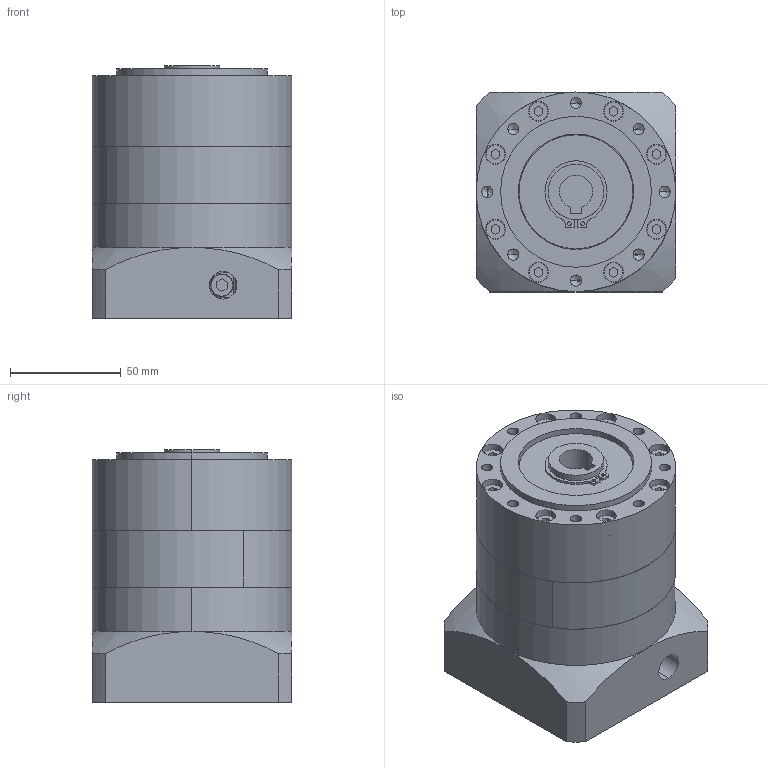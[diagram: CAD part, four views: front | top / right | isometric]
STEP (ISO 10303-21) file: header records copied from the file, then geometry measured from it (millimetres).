
FILE_DESCRIPTION (( 'STEP AP203' ), '1' );
FILE_NAME ('PBE090-L1-14-73-98.44.STEP', '2026-09-22T09:01:21', ( 'Windows User' ), ( 'P R C' ), 'SwSTEP 2.0', 'SolidWorks 2016', '' );
FILE_SCHEMA (( 'CONFIG_CONTROL_DESIGN' ));
Length unit declared in the file: millimetre
Products named in the file (7): PBE90 蟀諉啣-73-M5-98.4_D8-70 D9-90 D10-M5 A2-90 L4-32 L6-47(32+15) L7-6 R-59.5梓袧; PBE90 奻屳唳; PBE090-L1-14-73-98.44; PBE90 κｳﾝﾈｦ-ﾓﾅｻｯ_ﾒｻｼｶﾄﾚｳﾝﾈｦ; PBE90 狟屳唳-14_D6-90 D7-19 梓袧; 囀鞠褒蹟佪 M6x20; 粣創-6007 35x62x14
Assembly tree (6 placements, depth 2):
  PBE090-L1-14-73-98.44
    PBE90 κｳﾝﾈｦ-ﾓﾅｻｯ_ﾒｻｼｶﾄﾚｳﾝﾈｦ
    PBE90 狟屳唳-14_D6-90 D7-19 梓袧
    囀鞠褒蹟佪 M6x20
    粣創-6007 35x62x14
    PBE90 蟀諉啣-73-M5-98.4_D8-70 D9-90 D10-M5 A2-90 L4-32 L6-47(32+15) L7-6 R-59.5梓袧
    PBE90 奻屳唳
Bounding box: 90 x 90 x 114 mm (x, y, z)
Volume: 648894.7 mm3; surface area: 139238.1 mm2
Topology: 6 solids, 6 shells, 1124 faces, 3049 edges, 2009 vertices
Faces by surface type: plane 616, bspline 304, cylinder 178, cone 26
Entity records: 47780 total; most frequent: CARTESIAN_POINT 20504, ORIENTED_EDGE 6050, DIRECTION 4580, EDGE_CURVE 3025, VERTEX_POINT 2009, VECTOR 1730, LINE 1730, AXIS2_PLACEMENT_3D 1425
